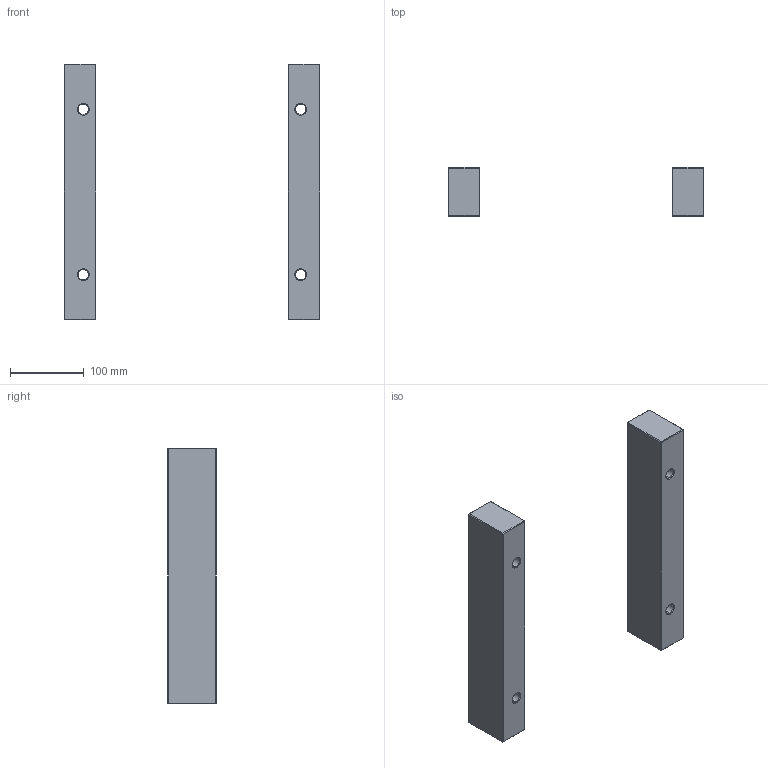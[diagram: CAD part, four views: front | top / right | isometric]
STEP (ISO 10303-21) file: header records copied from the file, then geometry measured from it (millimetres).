
FILE_DESCRIPTION (( 'STEP AP214' ), '1' );
FILE_NAME ('ESP-346X346x66.STEP', '2020-04-14T08:21:34', ( 'August' ), ( '' ), 'SwSTEP 2.0', 'SolidWorks 2018', '' );
FILE_SCHEMA (( 'AUTOMOTIVE_DESIGN' ));
Length unit declared in the file: millimetre
Products named in the file (1): ESP-346X346x66
Bounding box: 346 x 66 x 346 mm (x, y, z)
Volume: 1921262.7 mm3; surface area: 170253.8 mm2
Topology: 2 solids, 2 shells, 76 faces, 152 edges, 80 vertices
Faces by surface type: plane 52, cone 16, cylinder 8
Entity records: 1935 total; most frequent: DIRECTION 338, CARTESIAN_POINT 309, ORIENTED_EDGE 304, EDGE_CURVE 152, LINE 120, VECTOR 120, AXIS2_PLACEMENT_3D 109, EDGE_LOOP 84
